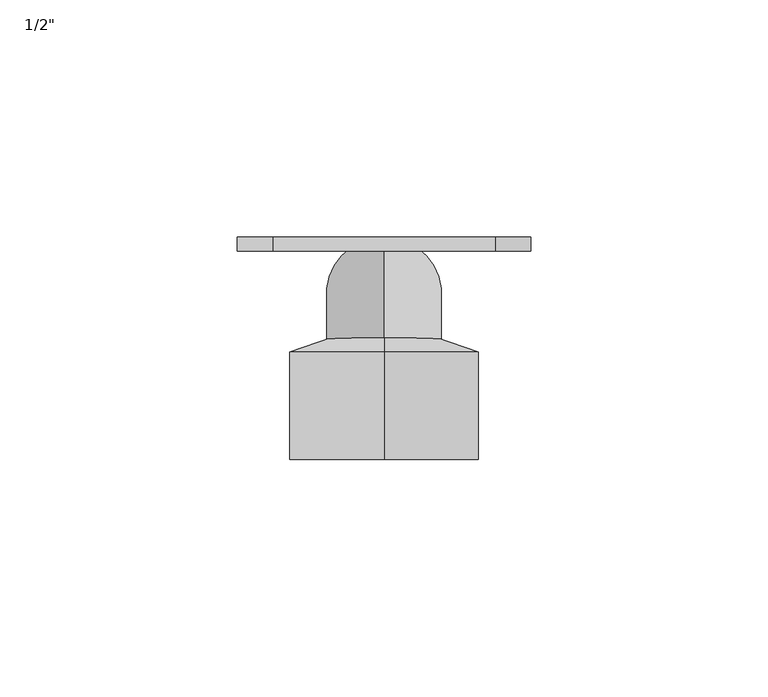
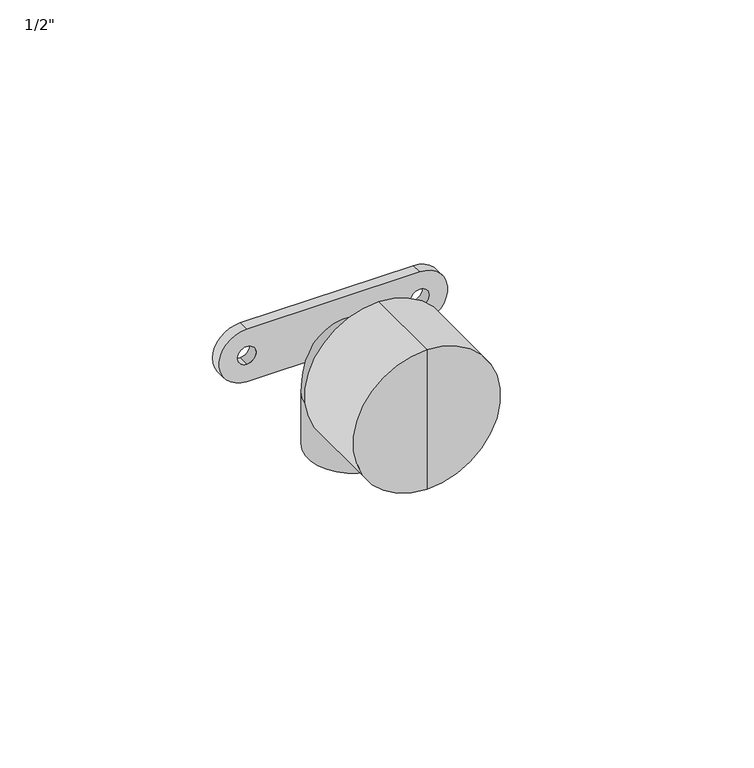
"""IFC4 building model written with IfcOpenShell, lengths in millimetres: pipe fitting geometry."""

import ifcopenshell
import ifcopenshell.guid

model = None  # the IFC model being written
_history = None  # IfcOwnerHistory: only IFC2X3 demands one
_inside = {}  # id of a spatial element -> (the spatial element, [elements in it])
_under = {}  # id of a project, library or spatial element -> (it, [spatial elements below it])
_declared = {}  # id of a project -> (the project, [libraries it declares])
_typed = {}  # id of a type object -> (the type object, [elements of that type])
_made_of = {}  # id of a material, layer set ... -> (it, [elements and type objects made of it])


def new_model(schema):
    """Start an empty IFC model of exactly this schema.

    Asked for "IFC4X3", IfcOpenShell would pick the latest addendum, in which some entities
    have other attributes; the version numbers below select the first issue.
    IFC2X3 requires an IfcOwnerHistory on every rooted entity: one is made here for all.
    """
    global model, _history
    if schema == "IFC4X3":
        model = ifcopenshell.file(schema_version=(4, 3, 0, 0))
    else:
        model = ifcopenshell.file(schema=schema)
    _inside.clear()
    _under.clear()
    _declared.clear()
    _typed.clear()
    _made_of.clear()
    _history = None
    if model.schema == "IFC2X3":
        org = make("IfcOrganization", Name="unknown")
        user = make(
            "IfcPersonAndOrganization",
            ThePerson=make("IfcPerson", FamilyName="unknown"),
            TheOrganization=org,
        )
        app = make(
            "IfcApplication",
            ApplicationDeveloper=org,
            Version="unknown",
            ApplicationFullName="unknown",
            ApplicationIdentifier="unknown",
        )
        _history = make(
            "IfcOwnerHistory",
            OwningUser=user,
            OwningApplication=app,
            ChangeAction="ADDED",
            CreationDate=0,
        )
    return model


def make(cls, **values):
    """One entity of the class cls with the attributes given. An attribute that is None is left unset."""
    return model.create_entity(
        cls, **{name: value for name, value in values.items() if value is not None}
    )


def rooted(cls, **values):
    """An entity with a GlobalId (a new one), such as an element, a storey or a relation."""
    return make(cls, GlobalId=ifcopenshell.guid.new(), OwnerHistory=_history, **values)


def si_unit(unit_type, name, prefix=None):
    """IfcSIUnit, for example si_unit("LENGTHUNIT", "METRE", prefix="MILLI")."""
    return make("IfcSIUnit", UnitType=unit_type, Prefix=prefix, Name=name)


def assignment(units):
    """IfcUnitAssignment: the units of a project."""
    return None if units is None else make("IfcUnitAssignment", Units=units)


def point(xyz):
    """IfcCartesianPoint."""
    return None if xyz is None else make("IfcCartesianPoint", Coordinates=xyz)


def direction(xyz):
    """IfcDirection."""
    return None if xyz is None else make("IfcDirection", DirectionRatios=xyz)


def frame(location, z_axis=None, x_axis=None):
    """IfcAxis2Placement3D, a coordinate frame: its origin and axes. An axis left out is left unset."""
    return make(
        "IfcAxis2Placement3D",
        Location=point(location),
        Axis=direction(z_axis),
        RefDirection=direction(x_axis),
    )


def frame_2d(location, x_axis=None):
    """IfcAxis2Placement2D, a coordinate frame in the plane: its origin and x axis."""
    return make(
        "IfcAxis2Placement2D", Location=point(location), RefDirection=direction(x_axis)
    )


def origin():
    """The frame at (0, 0, 0) with its axes left unset."""
    return frame((0.0, 0.0, 0.0))


def place(relative_to, where):
    """IfcLocalPlacement: puts the frame where relative to a parent placement (None: the world)."""
    return make(
        "IfcLocalPlacement", PlacementRelTo=relative_to, RelativePlacement=where
    )


def context(
    kind, dimensions, precision=None, world=None, true_north=None, identifier=None
):
    """IfcGeometricRepresentationContext, for example the 3D "Model" context."""
    return make(
        "IfcGeometricRepresentationContext",
        ContextIdentifier=identifier,
        ContextType=kind,
        CoordinateSpaceDimension=dimensions,
        Precision=precision,
        WorldCoordinateSystem=world,
        TrueNorth=true_north,
    )


def project(units=None, contexts=None):
    """IfcProject with its units and contexts."""
    return rooted(
        "IfcProject",
        Name="project",
        RepresentationContexts=contexts,
        UnitsInContext=assignment(units),
    )


def spatial(cls, under=None, at=None, **own):
    """A site, building, storey or space (cls), placed at a placement, below another one or the project."""
    s = rooted(cls, ObjectPlacement=at, **own)
    if under is not None:
        _under.setdefault(under.id(), (under, []))[1].append(s)
    return s


def polyline(points):
    """IfcPolyline through the points."""
    return make("IfcPolyline", Points=[point(p) for p in points])


def circle_curve(where, radius):
    """IfcCircle in the frame where."""
    return make("IfcCircle", Position=where, Radius=radius)


def ellipse_curve(where, semi_axis1, semi_axis2):
    """IfcEllipse in the frame where."""
    return make(
        "IfcEllipse", Position=where, SemiAxis1=semi_axis1, SemiAxis2=semi_axis2
    )


def trimmed(basis, trim1, trim2, sense, master):
    """IfcTrimmedCurve: the piece of a basis curve between two trims."""
    return make(
        "IfcTrimmedCurve",
        BasisCurve=basis,
        Trim1=trim1,
        Trim2=trim2,
        SenseAgreement=sense,
        MasterRepresentation=master,
    )


def segment(curve, same_sense, transition):
    """IfcCompositeCurveSegment."""
    return make(
        "IfcCompositeCurveSegment",
        Transition=transition,
        SameSense=same_sense,
        ParentCurve=curve,
    )


def composite_curve(segments, self_intersect=None):
    """IfcCompositeCurve: segments joined end to end."""
    return make("IfcCompositeCurve", Segments=segments, SelfIntersect=self_intersect)


def outline(outer, holes=None, kind="AREA"):
    """IfcArbitraryClosedProfileDef: a profile drawn as a closed curve; with holes, ...WithVoids."""
    if holes is None:
        return make("IfcArbitraryClosedProfileDef", ProfileType=kind, OuterCurve=outer)
    return make(
        "IfcArbitraryProfileDefWithVoids",
        ProfileType=kind,
        OuterCurve=outer,
        InnerCurves=holes,
    )


def extrude(swept, where, along, depth):
    """IfcExtrudedAreaSolid: the profile swept, set in the frame where, extruded along a direction by depth."""
    return make(
        "IfcExtrudedAreaSolid",
        SweptArea=swept,
        Position=where,
        ExtrudedDirection=direction(along),
        Depth=depth,
    )


def shape(context_of_items, identifier, shape_type, items):
    """IfcShapeRepresentation: the items that make up one representation, for example the "Body"."""
    return make(
        "IfcShapeRepresentation",
        ContextOfItems=context_of_items,
        RepresentationIdentifier=identifier,
        RepresentationType=shape_type,
        Items=items,
    )


def source(mapping_origin, context_of_items, identifier, shape_type, items):
    """IfcRepresentationMap: a shape defined once, which mapped items show again and again."""
    return make(
        "IfcRepresentationMap",
        MappingOrigin=mapping_origin,
        MappedRepresentation=shape(context_of_items, identifier, shape_type, items),
    )


def transform(
    local_origin,
    x_axis=None,
    y_axis=None,
    z_axis=None,
    scale=None,
    scale2=None,
    scale3=None,
    uniform=True,
):
    """IfcCartesianTransformationOperator3D, or its non-uniform kind. x_axis, y_axis, z_axis: its Axis1, 2, 3."""
    if uniform:
        return make(
            "IfcCartesianTransformationOperator3D",
            Axis1=direction(x_axis),
            Axis2=direction(y_axis),
            LocalOrigin=point(local_origin),
            Scale=scale,
            Axis3=direction(z_axis),
        )
    return make(
        "IfcCartesianTransformationOperator3DnonUniform",
        Axis1=direction(x_axis),
        Axis2=direction(y_axis),
        LocalOrigin=point(local_origin),
        Scale=scale,
        Axis3=direction(z_axis),
        Scale2=scale2,
        Scale3=scale3,
    )


def mapped(mapping_source, mapping_target):
    """IfcMappedItem: shows the shape of a source again, moved by a transform."""
    return make(
        "IfcMappedItem", MappingSource=mapping_source, MappingTarget=mapping_target
    )


def made_of(thing, what):
    """Note that an element or type object is made of a material, layer set ...; save() writes the relation."""
    if what is not None:
        _made_of.setdefault(what.id(), (what, []))[1].append(thing)
    return thing


def element(
    cls,
    number,
    at=None,
    inside=None,
    cuts=None,
    type_object=None,
    material=None,
    context=None,
    identifier="Body",
    shape_type=None,
    held_by="IfcProductDefinitionShape",
    body=None,
    shapes=None,
    **own,
):
    """One element of the class cls, such as IfcWall. Its Tag is "e" and its number.

    at: its placement. inside: the storey or other place that contains it. cuts: it is an
    opening in that element (IfcRelVoidsElement). A single representation is given by context,
    identifier, shape_type and body (its items); several are given by shapes. held_by: the class
    of the entity that holds the representations. save() writes the other relations.
    """
    e = rooted(cls, Tag="e%d" % number, ObjectPlacement=at, **own)
    if body is not None:
        shapes = [shape(context, identifier, shape_type, body)]
    if shapes is not None:
        e.Representation = make(held_by, Representations=shapes)
    if inside is not None:
        _inside.setdefault(inside.id(), (inside, []))[1].append(e)
    if cuts is not None:
        rooted(
            "IfcRelVoidsElement", RelatingBuildingElement=cuts, RelatedOpeningElement=e
        )
    if type_object is not None:
        _typed.setdefault(type_object.id(), (type_object, []))[1].append(e)
    return made_of(e, material)


def aggregate(whole, parts):
    """IfcRelAggregates: a whole, such as a stair, and the parts it consists of."""
    return rooted("IfcRelAggregates", RelatingObject=whole, RelatedObjects=parts)


def save(model, path):
    """Write the relations noted so far, then the file.

    IfcRelAggregates (storeys below a building ...), IfcRelContainedInSpatialStructure (elements
    in a storey), IfcRelDefinesByType, IfcRelAssociatesMaterial and IfcRelDeclares: one each for
    every whole, place, type object, material and project.
    """
    for whole, parts in _under.values():
        aggregate(whole, parts)
    for where, things in _inside.values():
        rooted(
            "IfcRelContainedInSpatialStructure",
            RelatedElements=things,
            RelatingStructure=where,
        )
    for kind, things in _typed.values():
        rooted("IfcRelDefinesByType", RelatedObjects=things, RelatingType=kind)
    for what, things in _made_of.values():
        rooted("IfcRelAssociatesMaterial", RelatedObjects=things, RelatingMaterial=what)
    for by, libraries in _declared.values():
        rooted("IfcRelDeclares", RelatingContext=by, RelatedDefinitions=libraries)
    model.write(path)


def plane_surface(at):
    """IfcPlane: the flat surface through the origin of the frame at, square to its z axis."""
    return make("IfcPlane", Position=at)


def cylinder_surface(at, radius):
    """IfcCylindricalSurface: all points at the distance radius from the z axis of the frame at."""
    return make("IfcCylindricalSurface", Position=at, Radius=radius)


def revolved_surface(curve, axis_point, axis_direction):
    """IfcSurfaceOfRevolution: the curve turned about the line through axis_point along axis_direction."""
    return make(
        "IfcSurfaceOfRevolution",
        SweptCurve=make("IfcArbitraryOpenProfileDef", ProfileType="CURVE", Curve=curve),
        AxisPosition=make("IfcAxis1Placement", Location=point(axis_point), Axis=direction(axis_direction)),
    )


def advanced_brep(points, edges, surfaces, faces):
    """IfcAdvancedBrep: a solid bounded by faces that lie on surfaces and meet in shared edges.

    An edge is (start, end): straight between two places in points (the first is 0);
    or (start, end, curve); or (start, end, curve, False) where it runs against its curve.
    A face is (place in surfaces, loops), or (place, loops, False) where it looks against
    its surface's normal. A loop lists edges by number (the first is 1), with a minus sign
    where the edge is run from its end to its start. The first loop is the outer one.
    """
    corners = [point(p) for p in points]
    vertices = [make("IfcVertexPoint", VertexGeometry=c) for c in corners]
    made = []
    for start, end, *more in edges:
        made.append(
            make(
                "IfcEdgeCurve",
                EdgeStart=vertices[start],
                EdgeEnd=vertices[end],
                EdgeGeometry=more[0] if more else make("IfcPolyline", Points=[corners[start], corners[end]]),
                SameSense=more[1] if len(more) > 1 else True,
            )
        )
    hull = []
    for where, loops, *sense in faces:
        bounds = []
        for j, loop in enumerate(loops):
            ring = [make("IfcOrientedEdge", EdgeElement=made[abs(k) - 1], Orientation=k > 0) for k in loop]
            bounds.append(
                make(
                    "IfcFaceOuterBound" if j == 0 else "IfcFaceBound",
                    Bound=make("IfcEdgeLoop", EdgeList=ring),
                    Orientation=True,
                )
            )
        hull.append(make("IfcAdvancedFace", Bounds=bounds, FaceSurface=surfaces[where], SameSense=sense[0] if sense else True))
    return make("IfcAdvancedBrep", Outer=make("IfcClosedShell", CfsFaces=hull))


def pipe_fitting_c9998384(model_context):
    return source(origin(), model_context, "Body", "SolidModel", [
        extrude(outline(composite_curve([segment(trimmed(circle_curve(frame_2d((0.0, -23.5)), 7.5), [point((7.5, -23.5))], [point((-7.5, -23.5))], False, "CARTESIAN"), True, "CONTINUOUS"), segment(polyline([(-7.5, -23.5), (-7.5, 23.5)]), True, "CONTINUOUS"), segment(trimmed(circle_curve(frame_2d((0.0, 23.5)), 7.5), [point((-7.5, 23.5))], [point((7.5, 23.5))], False, "CARTESIAN"), True, "CONTINUOUS"), segment(polyline([(7.5, 23.5), (7.5, -23.5)]), True, "CONTINUOUS")], self_intersect=False), holes=[composite_curve([segment(trimmed(circle_curve(frame_2d((0.0, -23.5)), 2.5), [point((-2.5, -23.5))], [point((2.5, -23.5))], True, "CARTESIAN"), True, "CONTINUOUS"), segment(trimmed(circle_curve(frame_2d((0.0, -23.5)), 2.5), [point((2.5, -23.5))], [point((-2.5, -23.5))], True, "CARTESIAN"), True, "CONTINUOUS")], self_intersect=False), composite_curve([segment(trimmed(circle_curve(frame_2d((0.0, 23.5)), 2.5), [point((-2.5, 23.5))], [point((2.5, 23.5))], True, "CARTESIAN"), True, "CONTINUOUS"), segment(trimmed(circle_curve(frame_2d((0.0, 23.5)), 2.5), [point((2.5, 23.5))], [point((-2.5, 23.5))], True, "CARTESIAN"), True, "CONTINUOUS")], self_intersect=False)]), frame((0.0, 9.15, 0.0), z_axis=(0.0, 1.0, 0.0), x_axis=(0.0, 0.0, 1.0)), (0.0, 0.0, 1.0), 3.0),
        advanced_brep(
        [(0.0, -34.85, 0.0), (0.0, -34.85, 20.0), (0.0, -34.85, -20.0), (0.0, -8.0, -8.0), (0.0, -8.0, 8.0), (0.0, -8.0, 0.0), (0.0, -12.15, 20.0), (0.0, -12.15, -20.0)],
        [
            (0, 1),
            (1, 2, circle_curve(frame((0.0, -34.85, 0.0), z_axis=(0.0, -1.0, 0.0), x_axis=(0.0, 0.0, 1.0)), 20.0)),
            (2, 0),
            (2, 1, circle_curve(frame((0.0, -34.85, 0.0), z_axis=(0.0, -1.0, 0.0), x_axis=(0.0, 0.0, 1.0)), 20.0)),
            (3, 4, circle_curve(frame((0.0, -8.0, 0.0), z_axis=(0.0, 1.0, 0.0), x_axis=(0.0, 0.0, 1.0)), 8.0)),
            (4, 5),
            (5, 3),
            (4, 3, circle_curve(frame((0.0, -8.0, 0.0), z_axis=(0.0, 1.0, 0.0), x_axis=(0.0, 0.0, 1.0)), 8.0)),
            (1, 6),
            (6, 7, circle_curve(frame((0.0, -12.15, 0.0), z_axis=(0.0, -1.0, 0.0), x_axis=(0.0, 0.0, 1.0)), 20.0)),
            (7, 2),
            (7, 6, circle_curve(frame((0.0, -12.15, 0.0), z_axis=(0.0, -1.0, 0.0), x_axis=(0.0, 0.0, 1.0)), 20.0)),
            (6, 4),
            (3, 7),
        ],
        [
            plane_surface(frame((0.0, -34.85, 0.0), z_axis=(0.0, -1.0, 0.0), x_axis=(0.0, 0.0, 1.0))),
            plane_surface(frame((0.0, -8.0, 0.0), z_axis=(0.0, 1.0, 0.0), x_axis=(0.0, 0.0, 1.0))),
            cylinder_surface(frame((0.0, 1442.4208958, 0.0), z_axis=(0.0, -1.0, 0.0), x_axis=(0.0, 0.0, 1.0)), 20.0),
            revolved_surface(polyline([(0.0, -8.0, 8.0), (0.0, -12.15, 20.0)]), (0.0, 1442.4208958, 0.0), (0.0, -1.0, 0.0)),
        ],
        [
            (0, [[1, 2, 3]]),
            (0, [[-3, 4, -1]]),
            (1, [[5, 6, 7]]),
            (1, [[8, -7, -6]]),
            (2, [[-2, 9, 10, 11]]),
            (2, [[-4, -11, 12, -9]]),
            (3, [[-10, 13, -5, 14]]),
            (3, [[-12, -14, -8, -13]]),
        ],
    ),
        advanced_brep(
        [(0.0, 12.15, -28.0), (0.0, -12.15, -28.0), (0.0, -13.15, -12.15), (0.0, -12.15, -13.15), (0.0, 12.15, -13.15), (0.0, -13.15, 12.15), (0.0, -22.85, 12.15), (0.0, -22.85, -12.15)],
        [
            (0, 1, circle_curve(frame((0.0, 0.0, -28.0), z_axis=(0.0, 0.0, -1.0), x_axis=(0.0, -1.0, 0.0)), 12.15)),
            (1, 0, circle_curve(frame((0.0, 0.0, -28.0), z_axis=(0.0, 0.0, -1.0), x_axis=(0.0, -1.0, 0.0)), 12.15)),
            (2, 3, circle_curve(frame((0.0, -13.15, -13.15), z_axis=(-1.0, 0.0, 0.0), x_axis=(0.0, 1.0, 0.0)), 1.0)),
            (3, 4, circle_curve(frame((0.0, 0.0, -13.15), z_axis=(0.0, 0.0, 1.0), x_axis=(0.0, -1.0, 0.0)), 12.15)),
            (4, 5, circle_curve(frame((0.0, -13.15, -13.15), z_axis=(1.0, 0.0, 0.0), x_axis=(0.0, 1.0, 0.0)), 25.3)),
            (5, 2, circle_curve(frame((0.0, -13.15, 0.0), z_axis=(0.0, 1.0, 0.0), x_axis=(0.0, 0.0, -1.0)), 12.15)),
            (4, 3, circle_curve(frame((0.0, 0.0, -13.15), z_axis=(0.0, 0.0, 1.0), x_axis=(0.0, -1.0, 0.0)), 12.15)),
            (2, 5, circle_curve(frame((0.0, -13.15, 0.0), z_axis=(0.0, 1.0, 0.0), x_axis=(0.0, 0.0, -1.0)), 12.15)),
            (6, 7, circle_curve(frame((0.0, -22.85, 0.0), z_axis=(0.0, -1.0, 0.0), x_axis=(0.0, 0.0, -1.0)), 12.15)),
            (7, 6, circle_curve(frame((0.0, -22.85, 0.0), z_axis=(0.0, -1.0, 0.0), x_axis=(0.0, 0.0, -1.0)), 12.15)),
            (0, 4),
            (3, 1),
            (5, 6),
            (7, 2),
        ],
        [
            plane_surface(frame((0.0, 0.0, -28.0), z_axis=(0.0, 0.0, -1.0), x_axis=(1.0, 0.0, 0.0))),
            revolved_surface(trimmed(ellipse_curve(frame((0.0, 0.0, -13.15), z_axis=(0.0, 0.0, -1.0), x_axis=(0.0, -1.0, 0.0)), 12.15, 12.15), [point((0.0, 12.15, -13.15))], [point((0.0, -12.15, -13.15))], True, "CARTESIAN"), (0.0, -13.15, -13.15), (1.0, 0.0, 0.0)),
            revolved_surface(trimmed(ellipse_curve(frame((0.0, 0.0, -13.15), z_axis=(0.0, 0.0, -1.0), x_axis=(0.0, -1.0, 0.0)), 12.15, 12.15), [point((0.0, -12.15, -13.15))], [point((0.0, 12.15, -13.15))], True, "CARTESIAN"), (0.0, -13.15, -13.15), (1.0, 0.0, 0.0)),
            plane_surface(frame((0.0, -22.85, 0.0), z_axis=(0.0, -1.0, 0.0), x_axis=(1.0, 0.0, 0.0))),
            cylinder_surface(frame((0.0, 0.0, -28.0), z_axis=(0.0, 0.0, -1.0), x_axis=(0.0, -1.0, 0.0)), 12.15),
            cylinder_surface(frame((0.0, -13.15, 0.0), z_axis=(0.0, 1.0, 0.0), x_axis=(0.0, 0.0, -1.0)), 12.15),
        ],
        [
            (0, [[1, 2]]),
            (1, [[3, 4, 5, 6]]),
            (2, [[-5, 7, -3, 8]]),
            (3, [[9, 10]]),
            (4, [[-1, 11, -4, 12]]),
            (4, [[-2, -12, -7, -11]]),
            (5, [[-6, 13, -10, 14]]),
            (5, [[-8, -14, -9, -13]]),
        ],
    ),
    ])


if __name__ == "__main__":
    model = new_model("IFC4")
    model_context = context("Model", 3, world=origin())
    ifc_project = project(units=[si_unit("LENGTHUNIT", "METRE", prefix="MILLI")], contexts=[model_context])
    site = spatial("IfcSite", under=ifc_project)
    building = spatial("IfcBuilding", under=site)
    placement = place(None, origin())
    pipe_fitting_shape = pipe_fitting_c9998384(model_context)
    element("IfcPipeFitting", 1, ObjectType="KAN-therm PP kolano z wieszakiem : 1/2\"", at=placement, inside=building, context=model_context, shape_type="MappedRepresentation", body=[
        mapped(pipe_fitting_shape, transform((0.0, 0.0, 0.0), x_axis=(1.0, 0.0, 0.0), y_axis=(0.0, 1.0, 0.0), z_axis=(0.0, 0.0, 1.0))),
    ])
    save(model, "model.ifc")
